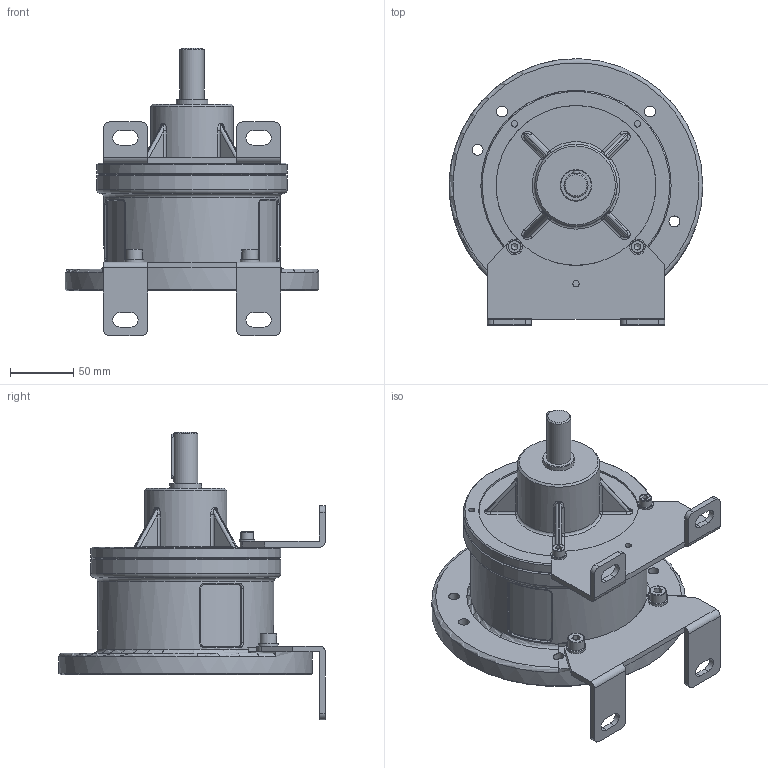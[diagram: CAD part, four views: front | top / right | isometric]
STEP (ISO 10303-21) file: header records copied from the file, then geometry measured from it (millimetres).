
FILE_DESCRIPTION (( 'STEP AP203' ), '1' );
FILE_NAME ('S-M20-K25.STEP', '2020-11-20T00:35:04', ( '' ), ( '' ), 'SwSTEP 2.0', 'SolidWorks 2015', '' );
FILE_SCHEMA (( 'CONFIG_CONTROL_DESIGN' ));
Length unit declared in the file: millimetre
Products named in the file (1): S-M20-K25
Bounding box: 200 x 210 x 226.5 mm (x, y, z)
Volume: 1967956.4 mm3; surface area: 171583.1 mm2
Topology: 1 solids, 1 shells, 329 faces, 815 edges, 493 vertices
Faces by surface type: plane 155, cylinder 109, bspline 28, torus 17, cone 12, sphere 8
Full cylindrical faces by diameter (mm): 5 x3, 8.5 x6, 10 x2, 13 x2, 19 x1, 25 x1, 30 x1, 50 x1, 65 x1, 94 x1, 126 x1, 130 x1, 139 x1, 150 x2, 200 x1
Entity records: 10893 total; most frequent: CARTESIAN_POINT 3394, DIRECTION 1566, ORIENTED_EDGE 1488, EDGE_CURVE 744, AXIS2_PLACEMENT_3D 586, VERTEX_POINT 474, EDGE_LOOP 408, VECTOR 394
